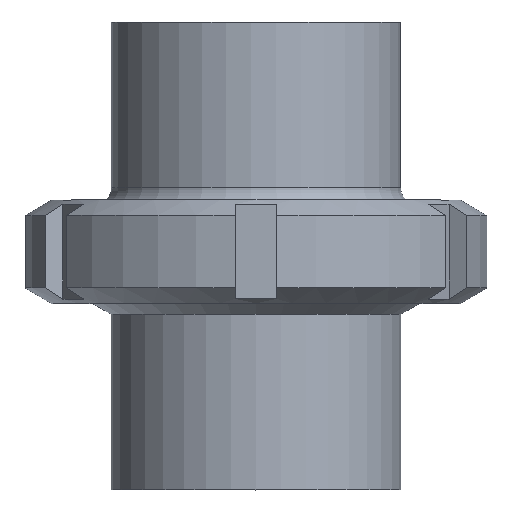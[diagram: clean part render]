
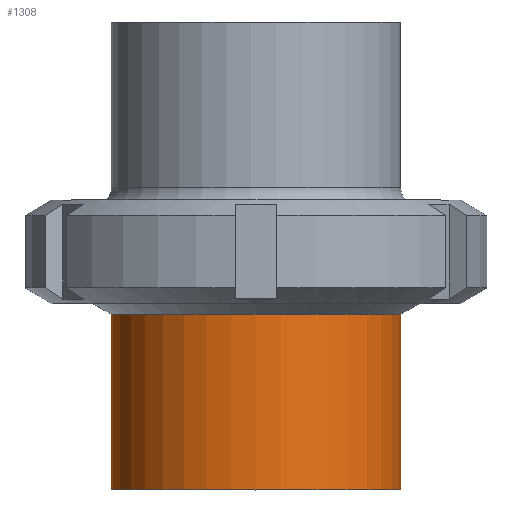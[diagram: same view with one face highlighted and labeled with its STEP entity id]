
A CAD part, top view. The second image highlights one B-rep face of the part: STEP entity #1308.
In plain terms, the highlighted cylindrical face has radius 35 mm (diameter 70 mm), a full revolution.
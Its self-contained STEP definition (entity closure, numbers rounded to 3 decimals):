
#79=CYLINDRICAL_SURFACE('',#1530,35.);
#98=LINE('',#2201,#142);
#142=VECTOR('',#1788,35.);
#246=FACE_OUTER_BOUND('',#317,.T.);
#317=EDGE_LOOP('',(#922,#923,#924,#925,#926,#927));
#416=CIRCLE('',#1528,35.);
#417=CIRCLE('',#1529,35.);
#418=CIRCLE('',#1531,35.);
#419=CIRCLE('',#1532,35.);
#529=VERTEX_POINT('',#2191);
#530=VERTEX_POINT('',#2192);
#531=VERTEX_POINT('',#2197);
#532=VERTEX_POINT('',#2198);
#682=EDGE_CURVE('',#529,#530,#416,.T.);
#683=EDGE_CURVE('',#530,#529,#417,.T.);
#685=EDGE_CURVE('',#531,#532,#418,.T.);
#686=EDGE_CURVE('',#532,#531,#419,.T.);
#687=EDGE_CURVE('',#532,#530,#98,.T.);
#922=ORIENTED_EDGE('',*,*,#685,.F.);
#923=ORIENTED_EDGE('',*,*,#686,.F.);
#924=ORIENTED_EDGE('',*,*,#687,.T.);
#925=ORIENTED_EDGE('',*,*,#683,.T.);
#926=ORIENTED_EDGE('',*,*,#682,.T.);
#927=ORIENTED_EDGE('',*,*,#687,.F.);
#1308=ADVANCED_FACE('',(#246),#79,.T.);
#1528=AXIS2_PLACEMENT_3D('',#2193,#1777,#1778);
#1529=AXIS2_PLACEMENT_3D('',#2194,#1779,#1780);
#1530=AXIS2_PLACEMENT_3D('',#2196,#1782,#1783);
#1531=AXIS2_PLACEMENT_3D('',#2199,#1784,#1785);
#1532=AXIS2_PLACEMENT_3D('',#2200,#1786,#1787);
#1777=DIRECTION('center_axis',(0.,-1.,0.));
#1778=DIRECTION('ref_axis',(1.,0.,0.));
#1779=DIRECTION('center_axis',(0.,-1.,0.));
#1780=DIRECTION('ref_axis',(1.,0.,0.));
#1782=DIRECTION('center_axis',(0.,-1.,0.));
#1783=DIRECTION('ref_axis',(1.,0.,0.));
#1784=DIRECTION('center_axis',(0.,-1.,0.));
#1785=DIRECTION('ref_axis',(1.,0.,0.));
#1786=DIRECTION('center_axis',(0.,-1.,0.));
#1787=DIRECTION('ref_axis',(1.,0.,0.));
#1788=DIRECTION('',(0.,1.,0.));
#2191=CARTESIAN_POINT('',(35.,42.402,0.));
#2192=CARTESIAN_POINT('',(-35.,42.402,0.));
#2193=CARTESIAN_POINT('Origin',(0.,42.402,0.));
#2194=CARTESIAN_POINT('Origin',(0.,42.402,0.));
#2196=CARTESIAN_POINT('Origin',(0.,21.201,0.));
#2197=CARTESIAN_POINT('',(35.,0.,0.));
#2198=CARTESIAN_POINT('',(-35.,0.,0.));
#2199=CARTESIAN_POINT('Origin',(0.,0.,0.));
#2200=CARTESIAN_POINT('Origin',(0.,0.,0.));
#2201=CARTESIAN_POINT('',(-35.,21.201,0.));
